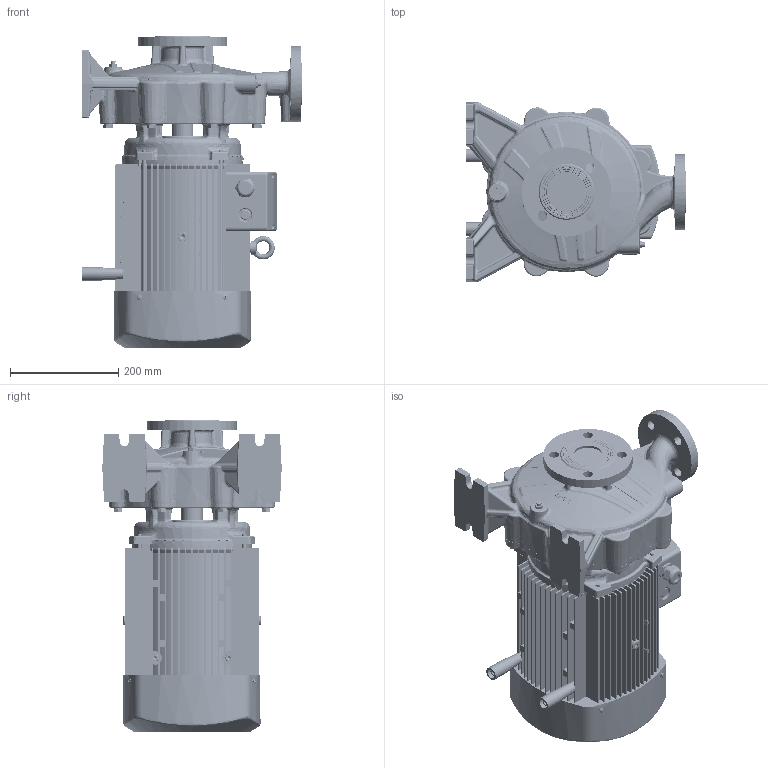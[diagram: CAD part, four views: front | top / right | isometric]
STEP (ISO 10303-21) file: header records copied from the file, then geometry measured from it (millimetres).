
FILE_DESCRIPTION (( 'STEP AP203' ), '1' );
FILE_NAME ('1.STEP', '2026-04-27T08:29:55', ( '微软用户' ), ( '微软中国' ), 'SwSTEP 2.0', 'SolidWorks 2020', '' );
FILE_SCHEMA (( 'CONFIG_CONTROL_DESIGN' ));
Products named in the file (1): 1
Bounding box: 405.14 x 331.19 x 575.5 mm (x, y, z)
Volume: 26998667.6 mm3; surface area: 1431674.5 mm2
Topology: 1 solids, 1 shells, 4360 faces, 10598 edges, 6517 vertices
Faces by surface type: plane 1455, cylinder 1317, bspline 852, cone 352, torus 303, sphere 81
Entity records: 185806 total; most frequent: CARTESIAN_POINT 89261, ORIENTED_EDGE 21010, DIRECTION 19159, EDGE_CURVE 10505, AXIS2_PLACEMENT_3D 7777, VERTEX_POINT 6517, EDGE_LOOP 4804, FACE_OUTER_BOUND 4360
